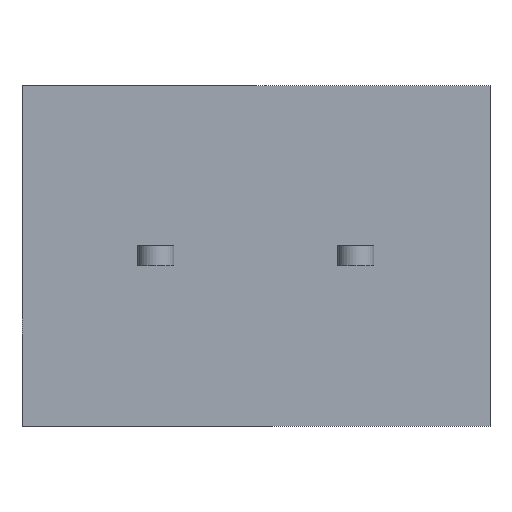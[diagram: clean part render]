
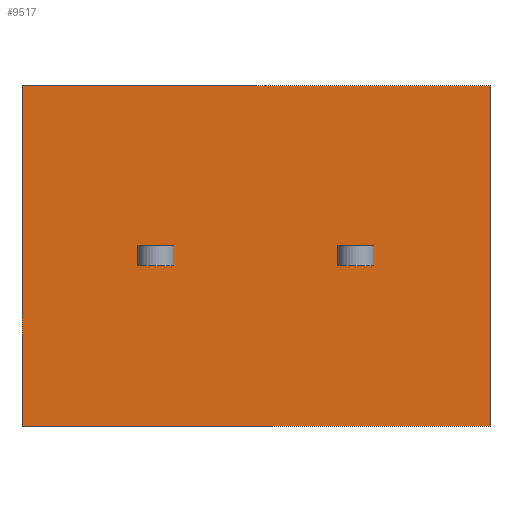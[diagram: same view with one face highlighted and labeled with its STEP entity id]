
A CAD part, front view. The second image highlights one B-rep face of the part: STEP entity #9517.
In plain terms, the highlighted planar face has unit normal (0, -1, 0).
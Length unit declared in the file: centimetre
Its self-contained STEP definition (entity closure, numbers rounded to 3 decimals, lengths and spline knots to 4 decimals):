
#589=VERTEX_POINT('',#12030);
#590=VERTEX_POINT('',#12031);
#593=VERTEX_POINT('',#12039);
#621=VERTEX_POINT('',#12110);
#717=VERTEX_POINT('',#12446);
#724=VERTEX_POINT('',#12459);
#817=VERTEX_POINT('',#12772);
#818=VERTEX_POINT('',#12773);
#821=VERTEX_POINT('',#12781);
#832=VERTEX_POINT('',#12816);
#1171=VERTEX_POINT('',#14329);
#1172=VERTEX_POINT('',#14331);
#1541=VECTOR('',#10259,1.);
#1545=VECTOR('',#10264,1.);
#1570=VECTOR('',#10320,1.);
#1572=VECTOR('',#10323,1.);
#1677=VECTOR('',#10581,1.);
#1763=VECTOR('',#10817,1.);
#1767=VECTOR('',#10822,1.);
#1778=VECTOR('',#10855,1.);
#1780=VECTOR('',#10858,1.);
#2189=VECTOR('',#11406,1.);
#2225=VECTOR('',#11461,1.);
#2226=VECTOR('',#11462,1.);
#2637=LINE('',#12029,#1541);
#2641=LINE('',#12038,#1545);
#2666=LINE('',#12109,#1570);
#2668=LINE('',#12113,#1572);
#2773=LINE('',#12460,#1677);
#2859=LINE('',#12771,#1763);
#2863=LINE('',#12780,#1767);
#2874=LINE('',#12815,#1778);
#2876=LINE('',#12819,#1780);
#3285=LINE('',#14330,#2189);
#3321=LINE('',#14410,#2225);
#3322=LINE('',#14411,#2226);
#3733=EDGE_CURVE('',#589,#590,#2637,.T.);
#3737=EDGE_CURVE('',#593,#589,#2641,.T.);
#3772=EDGE_CURVE('',#621,#593,#2666,.T.);
#3774=EDGE_CURVE('',#590,#621,#2668,.T.);
#3927=EDGE_CURVE('',#724,#717,#2773,.T.);
#4063=EDGE_CURVE('',#817,#818,#2859,.T.);
#4067=EDGE_CURVE('',#821,#817,#2863,.T.);
#4084=EDGE_CURVE('',#832,#821,#2874,.T.);
#4086=EDGE_CURVE('',#818,#832,#2876,.T.);
#4599=EDGE_CURVE('',#1172,#1171,#3285,.T.);
#4639=EDGE_CURVE('',#1171,#717,#3321,.T.);
#4640=EDGE_CURVE('',#724,#1172,#3322,.T.);
#6917=ORIENTED_EDGE('',*,*,#3737,.T.);
#6918=ORIENTED_EDGE('',*,*,#3733,.T.);
#6919=ORIENTED_EDGE('',*,*,#3774,.T.);
#6920=ORIENTED_EDGE('',*,*,#3772,.T.);
#6921=ORIENTED_EDGE('',*,*,#4067,.T.);
#6922=ORIENTED_EDGE('',*,*,#4063,.T.);
#6923=ORIENTED_EDGE('',*,*,#4086,.T.);
#6924=ORIENTED_EDGE('',*,*,#4084,.T.);
#6925=ORIENTED_EDGE('',*,*,#4639,.T.);
#6926=ORIENTED_EDGE('',*,*,#3927,.F.);
#6927=ORIENTED_EDGE('',*,*,#4640,.T.);
#6928=ORIENTED_EDGE('',*,*,#4599,.T.);
#8377=EDGE_LOOP('',(#6917,#6918,#6919,#6920));
#8378=EDGE_LOOP('',(#6921,#6922,#6923,#6924));
#8379=EDGE_LOOP('',(#6925,#6926,#6927,#6928));
#8965=FACE_BOUND('',#8377,.T.);
#8966=FACE_BOUND('',#8378,.T.);
#8967=FACE_BOUND('',#8379,.T.);
#9517=ADVANCED_FACE('',(#8965,#8966,#8967),#16173,.T.);
#10110=AXIS2_PLACEMENT_3D('',#14409,#11460,$);
#10259=DIRECTION('',(0.,0.,1.));
#10264=DIRECTION('',(-1.,0.,0.));
#10320=DIRECTION('',(0.,0.,-1.));
#10323=DIRECTION('',(1.,0.,0.));
#10581=DIRECTION('',(0.,0.,-1.));
#10817=DIRECTION('',(0.,0.,1.));
#10822=DIRECTION('',(-1.,0.,0.));
#10855=DIRECTION('',(0.,0.,-1.));
#10858=DIRECTION('',(1.,0.,0.));
#11406=DIRECTION('',(0.,0.,-1.));
#11460=DIRECTION('',(0.,-1.,0.));
#11461=DIRECTION('',(1.,0.,0.));
#11462=DIRECTION('',(-1.,0.,0.));
#12029=CARTESIAN_POINT('',(1.5,0.,-0.175));
#12030=CARTESIAN_POINT('',(1.5,0.,-0.05));
#12031=CARTESIAN_POINT('',(1.5,0.,0.05));
#12038=CARTESIAN_POINT('',(0.795,0.,-0.05));
#12039=CARTESIAN_POINT('',(1.68,0.,-0.05));
#12109=CARTESIAN_POINT('',(1.68,0.,-0.175));
#12110=CARTESIAN_POINT('',(1.68,0.,0.05));
#12113=CARTESIAN_POINT('',(0.795,0.,0.05));
#12446=CARTESIAN_POINT('',(2.26,0.,-0.85));
#12459=CARTESIAN_POINT('',(2.26,0.,0.85));
#12460=CARTESIAN_POINT('',(2.26,0.,0.85));
#12771=CARTESIAN_POINT('',(0.5,0.,-0.175));
#12772=CARTESIAN_POINT('',(0.5,0.,-0.05));
#12773=CARTESIAN_POINT('',(0.5,0.,0.05));
#12780=CARTESIAN_POINT('',(0.295,0.,-0.05));
#12781=CARTESIAN_POINT('',(0.68,0.,-0.05));
#12815=CARTESIAN_POINT('',(0.68,0.,-0.175));
#12816=CARTESIAN_POINT('',(0.68,0.,0.05));
#12819=CARTESIAN_POINT('',(0.295,0.,0.05));
#14329=CARTESIAN_POINT('',(-0.08,0.,-0.85));
#14330=CARTESIAN_POINT('',(-0.08,0.,0.85));
#14331=CARTESIAN_POINT('',(-0.08,0.,0.85));
#14409=CARTESIAN_POINT('',(0.,0.,0.));
#14410=CARTESIAN_POINT('',(1.,0.,-0.85));
#14411=CARTESIAN_POINT('',(0.,0.,0.85));
#16173=PLANE('',#10110);
